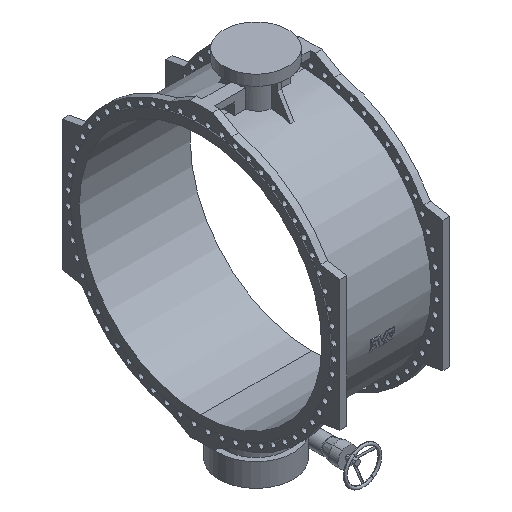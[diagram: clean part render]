
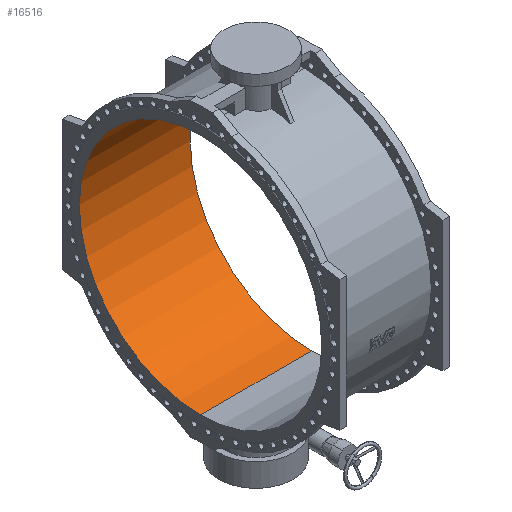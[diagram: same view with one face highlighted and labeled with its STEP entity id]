
A CAD part, isometric view. The second image highlights one B-rep face of the part: STEP entity #16516.
In plain terms, the highlighted cylindrical face has radius 1300 mm (diameter 2600 mm), a partial arc.
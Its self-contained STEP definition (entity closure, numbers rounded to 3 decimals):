
#103 = VERTEX_POINT ( 'NONE', #2970 ) ;
#1071 = AXIS2_PLACEMENT_3D ( 'NONE', #16931, #1813, #2247 ) ;
#1547 = DIRECTION ( 'NONE',  ( 0., 0., -1. ) ) ;
#1813 = DIRECTION ( 'NONE',  ( -1., 0., 0. ) ) ;
#1861 = CARTESIAN_POINT ( 'NONE',  ( -4356.808, 0., 0. ) ) ;
#1950 = CIRCLE ( 'NONE', #4044, 1300. ) ;
#2005 = VERTEX_POINT ( 'NONE', #8304 ) ;
#2247 = DIRECTION ( 'NONE',  ( 0., 0., -1. ) ) ;
#2970 = CARTESIAN_POINT ( 'NONE',  ( -595., 0., 1300. ) ) ;
#3463 = CARTESIAN_POINT ( 'NONE',  ( -4356.808, 0., -1300. ) ) ;
#4044 = AXIS2_PLACEMENT_3D ( 'NONE', #19977, #14623, #4970 ) ;
#4576 = CARTESIAN_POINT ( 'NONE',  ( -4356.808, 0., 1300. ) ) ;
#4970 = DIRECTION ( 'NONE',  ( 0., 0., -1. ) ) ;
#6850 = CARTESIAN_POINT ( 'NONE',  ( 595., 0., 1300. ) ) ;
#7161 = ORIENTED_EDGE ( 'NONE', *, *, #17456, .T. ) ;
#7380 = CIRCLE ( 'NONE', #1071, 1300. ) ;
#8304 = CARTESIAN_POINT ( 'NONE',  ( 595., 0., -1300. ) ) ;
#8497 = DIRECTION ( 'NONE',  ( 1., 0., 0. ) ) ;
#9338 = EDGE_CURVE ( 'NONE', #13355, #2005, #18905, .T. ) ;
#9877 = CYLINDRICAL_SURFACE ( 'NONE', #10140, 1300. ) ;
#9988 = ORIENTED_EDGE ( 'NONE', *, *, #9338, .T. ) ;
#10140 = AXIS2_PLACEMENT_3D ( 'NONE', #1861, #16553, #1547 ) ;
#10774 = EDGE_CURVE ( 'Defeatured_0_140+Defeatured_0_93+Defeatured_0_93+Defeatured_0_93', #2005, #21532, #1950, .T. ) ;
#11275 = DIRECTION ( 'NONE',  ( 1., 0., 0. ) ) ;
#12098 = VECTOR ( 'NONE', #11275, 1000. ) ;
#13355 = VERTEX_POINT ( 'NONE', #19004 ) ;
#13493 = VECTOR ( 'NONE', #8497, 1000. ) ;
#14623 = DIRECTION ( 'NONE',  ( 1., 0., 0. ) ) ;
#15239 = ORIENTED_EDGE ( 'NONE', *, *, #10774, .T. ) ;
#15266 = EDGE_LOOP ( 'NONE', ( #16880, #7161, #9988, #15239 ) ) ;
#16094 = LINE ( 'NONE', #4576, #12098 ) ;
#16516 = ADVANCED_FACE ( 'Defeatured_0_140', ( #18521 ), #9877, .F. ) ;
#16553 = DIRECTION ( 'NONE',  ( 1., 0., 0. ) ) ;
#16880 = ORIENTED_EDGE ( 'NONE', *, *, #20820, .F. ) ;
#16931 = CARTESIAN_POINT ( 'NONE',  ( -595., 0., 0. ) ) ;
#17456 = EDGE_CURVE ( 'Defeatured_0_140+Defeatured_0_72+Defeatured_0_72+Defeatured_0_72', #103, #13355, #7380, .T. ) ;
#18521 = FACE_OUTER_BOUND ( 'NONE', #15266, .T. ) ;
#18905 = LINE ( 'NONE', #3463, #13493 ) ;
#19004 = CARTESIAN_POINT ( 'NONE',  ( -595., 0., -1300. ) ) ;
#19977 = CARTESIAN_POINT ( 'NONE',  ( 595., 0., 0. ) ) ;
#20820 = EDGE_CURVE ( 'NONE', #103, #21532, #16094, .T. ) ;
#21532 = VERTEX_POINT ( 'NONE', #6850 ) ;
